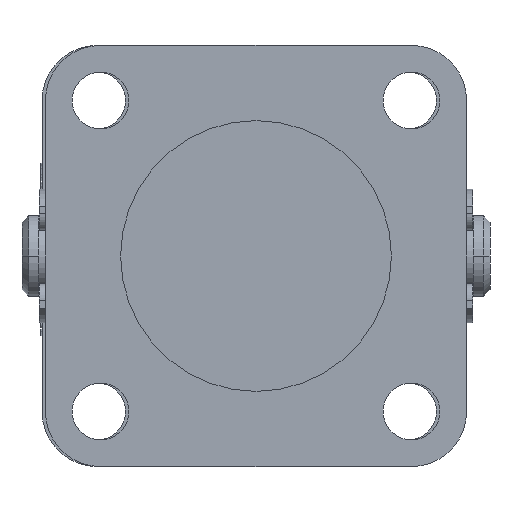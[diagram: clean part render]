
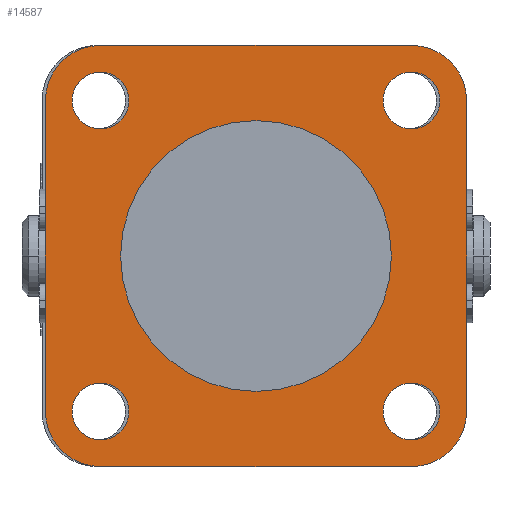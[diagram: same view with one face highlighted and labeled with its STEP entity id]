
A CAD part, left-side view. The second image highlights one B-rep face of the part: STEP entity #14587.
In plain terms, the highlighted planar face has unit normal (-1, 0, 0).
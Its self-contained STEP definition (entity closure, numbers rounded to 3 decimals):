
#14360=CARTESIAN_POINT('Vertex',(-11.,31.5,-23.25)) ;
#14363=CARTESIAN_POINT('Line Origine',(-11.,31.5,0.)) ;
#14367=CARTESIAN_POINT('Vertex',(-11.,31.5,23.25)) ;
#14435=CARTESIAN_POINT('Axis2P3D Location',(-11.,0.,0.)) ;
#14440=CARTESIAN_POINT('Line Origine',(-11.,0.,31.5)) ;
#14444=CARTESIAN_POINT('Vertex',(-11.,23.25,31.5)) ;
#14446=CARTESIAN_POINT('Vertex',(-11.,-23.25,31.5)) ;
#14449=CARTESIAN_POINT('Axis2P3D Location',(-11.,23.25,23.25)) ;
#14454=CARTESIAN_POINT('Axis2P3D Location',(-11.,23.25,-23.25)) ;
#14458=CARTESIAN_POINT('Vertex',(-11.,23.25,-31.5)) ;
#14461=CARTESIAN_POINT('Line Origine',(-11.,0.,-31.5)) ;
#14465=CARTESIAN_POINT('Vertex',(-11.,-23.25,-31.5)) ;
#14468=CARTESIAN_POINT('Axis2P3D Location',(-11.,-23.25,-23.25)) ;
#14472=CARTESIAN_POINT('Vertex',(-11.,-31.5,-23.25)) ;
#14475=CARTESIAN_POINT('Line Origine',(-11.,-31.5,0.)) ;
#14479=CARTESIAN_POINT('Vertex',(-11.,-31.5,23.25)) ;
#14482=CARTESIAN_POINT('Axis2P3D Location',(-11.,-23.25,23.25)) ;
#14497=CARTESIAN_POINT('Axis2P3D Location',(-11.,0.,0.)) ;
#14501=CARTESIAN_POINT('Vertex',(-11.,20.25,0.)) ;
#14503=CARTESIAN_POINT('Vertex',(-11.,-20.25,0.)) ;
#14506=CARTESIAN_POINT('Axis2P3D Location',(-11.,0.,0.)) ;
#14515=CARTESIAN_POINT('Axis2P3D Location',(-11.,-23.25,23.25)) ;
#14519=CARTESIAN_POINT('Vertex',(-11.,-19.,23.25)) ;
#14521=CARTESIAN_POINT('Vertex',(-11.,-27.5,23.25)) ;
#14524=CARTESIAN_POINT('Axis2P3D Location',(-11.,-23.25,23.25)) ;
#14533=CARTESIAN_POINT('Axis2P3D Location',(-11.,-23.25,-23.25)) ;
#14537=CARTESIAN_POINT('Vertex',(-11.,-19.,-23.25)) ;
#14539=CARTESIAN_POINT('Vertex',(-11.,-27.5,-23.25)) ;
#14542=CARTESIAN_POINT('Axis2P3D Location',(-11.,-23.25,-23.25)) ;
#14551=CARTESIAN_POINT('Axis2P3D Location',(-11.,23.25,-23.25)) ;
#14555=CARTESIAN_POINT('Vertex',(-11.,19.,-23.25)) ;
#14557=CARTESIAN_POINT('Vertex',(-11.,27.5,-23.25)) ;
#14560=CARTESIAN_POINT('Axis2P3D Location',(-11.,23.25,-23.25)) ;
#14569=CARTESIAN_POINT('Axis2P3D Location',(-11.,23.25,23.25)) ;
#14573=CARTESIAN_POINT('Vertex',(-11.,19.,23.25)) ;
#14575=CARTESIAN_POINT('Vertex',(-11.,27.5,23.25)) ;
#14578=CARTESIAN_POINT('Axis2P3D Location',(-11.,23.25,23.25)) ;
#14364=DIRECTION('Vector Direction',(0.,0.,1.)) ;
#14436=DIRECTION('Axis2P3D Direction',(1.,0.,0.)) ;
#14437=DIRECTION('Axis2P3D XDirection',(0.,1.,0.)) ;
#14441=DIRECTION('Vector Direction',(0.,1.,0.)) ;
#14450=DIRECTION('Axis2P3D Direction',(1.,0.,0.)) ;
#14455=DIRECTION('Axis2P3D Direction',(1.,0.,0.)) ;
#14462=DIRECTION('Vector Direction',(0.,-1.,0.)) ;
#14469=DIRECTION('Axis2P3D Direction',(1.,0.,0.)) ;
#14476=DIRECTION('Vector Direction',(0.,0.,-1.)) ;
#14483=DIRECTION('Axis2P3D Direction',(1.,0.,0.)) ;
#14498=DIRECTION('Axis2P3D Direction',(1.,0.,0.)) ;
#14507=DIRECTION('Axis2P3D Direction',(1.,0.,0.)) ;
#14516=DIRECTION('Axis2P3D Direction',(1.,0.,0.)) ;
#14525=DIRECTION('Axis2P3D Direction',(1.,0.,0.)) ;
#14534=DIRECTION('Axis2P3D Direction',(1.,0.,0.)) ;
#14543=DIRECTION('Axis2P3D Direction',(1.,0.,0.)) ;
#14552=DIRECTION('Axis2P3D Direction',(1.,0.,0.)) ;
#14561=DIRECTION('Axis2P3D Direction',(1.,0.,0.)) ;
#14570=DIRECTION('Axis2P3D Direction',(1.,0.,0.)) ;
#14579=DIRECTION('Axis2P3D Direction',(1.,0.,0.)) ;
#14438=AXIS2_PLACEMENT_3D('Plane Axis2P3D',#14435,#14436,#14437) ;
#14451=AXIS2_PLACEMENT_3D('Circle Axis2P3D',#14449,#14450,$) ;
#14456=AXIS2_PLACEMENT_3D('Circle Axis2P3D',#14454,#14455,$) ;
#14470=AXIS2_PLACEMENT_3D('Circle Axis2P3D',#14468,#14469,$) ;
#14484=AXIS2_PLACEMENT_3D('Circle Axis2P3D',#14482,#14483,$) ;
#14499=AXIS2_PLACEMENT_3D('Circle Axis2P3D',#14497,#14498,$) ;
#14508=AXIS2_PLACEMENT_3D('Circle Axis2P3D',#14506,#14507,$) ;
#14517=AXIS2_PLACEMENT_3D('Circle Axis2P3D',#14515,#14516,$) ;
#14526=AXIS2_PLACEMENT_3D('Circle Axis2P3D',#14524,#14525,$) ;
#14535=AXIS2_PLACEMENT_3D('Circle Axis2P3D',#14533,#14534,$) ;
#14544=AXIS2_PLACEMENT_3D('Circle Axis2P3D',#14542,#14543,$) ;
#14553=AXIS2_PLACEMENT_3D('Circle Axis2P3D',#14551,#14552,$) ;
#14562=AXIS2_PLACEMENT_3D('Circle Axis2P3D',#14560,#14561,$) ;
#14571=AXIS2_PLACEMENT_3D('Circle Axis2P3D',#14569,#14570,$) ;
#14580=AXIS2_PLACEMENT_3D('Circle Axis2P3D',#14578,#14579,$) ;
#14488=ORIENTED_EDGE('',*,*,#14448,.F.) ;
#14489=ORIENTED_EDGE('',*,*,#14453,.F.) ;
#14490=ORIENTED_EDGE('',*,*,#14369,.F.) ;
#14491=ORIENTED_EDGE('',*,*,#14460,.F.) ;
#14492=ORIENTED_EDGE('',*,*,#14467,.F.) ;
#14493=ORIENTED_EDGE('',*,*,#14474,.F.) ;
#14494=ORIENTED_EDGE('',*,*,#14481,.F.) ;
#14495=ORIENTED_EDGE('',*,*,#14486,.F.) ;
#14512=ORIENTED_EDGE('',*,*,#14505,.F.) ;
#14513=ORIENTED_EDGE('',*,*,#14510,.F.) ;
#14530=ORIENTED_EDGE('',*,*,#14523,.T.) ;
#14531=ORIENTED_EDGE('',*,*,#14528,.T.) ;
#14548=ORIENTED_EDGE('',*,*,#14541,.T.) ;
#14549=ORIENTED_EDGE('',*,*,#14546,.T.) ;
#14566=ORIENTED_EDGE('',*,*,#14559,.T.) ;
#14567=ORIENTED_EDGE('',*,*,#14564,.T.) ;
#14584=ORIENTED_EDGE('',*,*,#14577,.T.) ;
#14585=ORIENTED_EDGE('',*,*,#14582,.T.) ;
#14514=FACE_BOUND('',#14511,.T.) ;
#14532=FACE_BOUND('',#14529,.T.) ;
#14550=FACE_BOUND('',#14547,.T.) ;
#14568=FACE_BOUND('',#14565,.T.) ;
#14586=FACE_BOUND('',#14583,.T.) ;
#14365=VECTOR('Line Direction',#14364,1.) ;
#14442=VECTOR('Line Direction',#14441,1.) ;
#14463=VECTOR('Line Direction',#14462,1.) ;
#14477=VECTOR('Line Direction',#14476,1.) ;
#14587=ADVANCED_FACE('PartBody',(#14496,#14514,#14532,#14550,#14568,#14586),#14439,.F.) ;
#14452=CIRCLE('generated circle',#14451,8.25) ;
#14457=CIRCLE('generated circle',#14456,8.25) ;
#14471=CIRCLE('generated circle',#14470,8.25) ;
#14485=CIRCLE('generated circle',#14484,8.25) ;
#14500=CIRCLE('generated circle',#14499,20.25) ;
#14509=CIRCLE('generated circle',#14508,20.25) ;
#14518=CIRCLE('generated circle',#14517,4.25) ;
#14527=CIRCLE('generated circle',#14526,4.25) ;
#14536=CIRCLE('generated circle',#14535,4.25) ;
#14545=CIRCLE('generated circle',#14544,4.25) ;
#14554=CIRCLE('generated circle',#14553,4.25) ;
#14563=CIRCLE('generated circle',#14562,4.25) ;
#14572=CIRCLE('generated circle',#14571,4.25) ;
#14581=CIRCLE('generated circle',#14580,4.25) ;
#14369=EDGE_CURVE('',#14361,#14368,#14366,.T.) ;
#14448=EDGE_CURVE('',#14445,#14447,#14443,.F.) ;
#14453=EDGE_CURVE('',#14368,#14445,#14452,.T.) ;
#14460=EDGE_CURVE('',#14459,#14361,#14457,.T.) ;
#14467=EDGE_CURVE('',#14466,#14459,#14464,.F.) ;
#14474=EDGE_CURVE('',#14473,#14466,#14471,.T.) ;
#14481=EDGE_CURVE('',#14480,#14473,#14478,.T.) ;
#14486=EDGE_CURVE('',#14447,#14480,#14485,.T.) ;
#14505=EDGE_CURVE('',#14502,#14504,#14500,.F.) ;
#14510=EDGE_CURVE('',#14504,#14502,#14509,.F.) ;
#14523=EDGE_CURVE('',#14520,#14522,#14518,.T.) ;
#14528=EDGE_CURVE('',#14522,#14520,#14527,.T.) ;
#14541=EDGE_CURVE('',#14538,#14540,#14536,.T.) ;
#14546=EDGE_CURVE('',#14540,#14538,#14545,.T.) ;
#14559=EDGE_CURVE('',#14556,#14558,#14554,.T.) ;
#14564=EDGE_CURVE('',#14558,#14556,#14563,.T.) ;
#14577=EDGE_CURVE('',#14574,#14576,#14572,.T.) ;
#14582=EDGE_CURVE('',#14576,#14574,#14581,.T.) ;
#14487=EDGE_LOOP('',(#14488,#14489,#14490,#14491,#14492,#14493,#14494,#14495)) ;
#14511=EDGE_LOOP('',(#14512,#14513)) ;
#14529=EDGE_LOOP('',(#14530,#14531)) ;
#14547=EDGE_LOOP('',(#14548,#14549)) ;
#14565=EDGE_LOOP('',(#14566,#14567)) ;
#14583=EDGE_LOOP('',(#14584,#14585)) ;
#14496=FACE_OUTER_BOUND('',#14487,.T.) ;
#14366=LINE('Line',#14363,#14365) ;
#14443=LINE('Line',#14440,#14442) ;
#14464=LINE('Line',#14461,#14463) ;
#14478=LINE('Line',#14475,#14477) ;
#14439=PLANE('',#14438) ;
#14361=VERTEX_POINT('',#14360) ;
#14368=VERTEX_POINT('',#14367) ;
#14445=VERTEX_POINT('',#14444) ;
#14447=VERTEX_POINT('',#14446) ;
#14459=VERTEX_POINT('',#14458) ;
#14466=VERTEX_POINT('',#14465) ;
#14473=VERTEX_POINT('',#14472) ;
#14480=VERTEX_POINT('',#14479) ;
#14502=VERTEX_POINT('',#14501) ;
#14504=VERTEX_POINT('',#14503) ;
#14520=VERTEX_POINT('',#14519) ;
#14522=VERTEX_POINT('',#14521) ;
#14538=VERTEX_POINT('',#14537) ;
#14540=VERTEX_POINT('',#14539) ;
#14556=VERTEX_POINT('',#14555) ;
#14558=VERTEX_POINT('',#14557) ;
#14574=VERTEX_POINT('',#14573) ;
#14576=VERTEX_POINT('',#14575) ;
